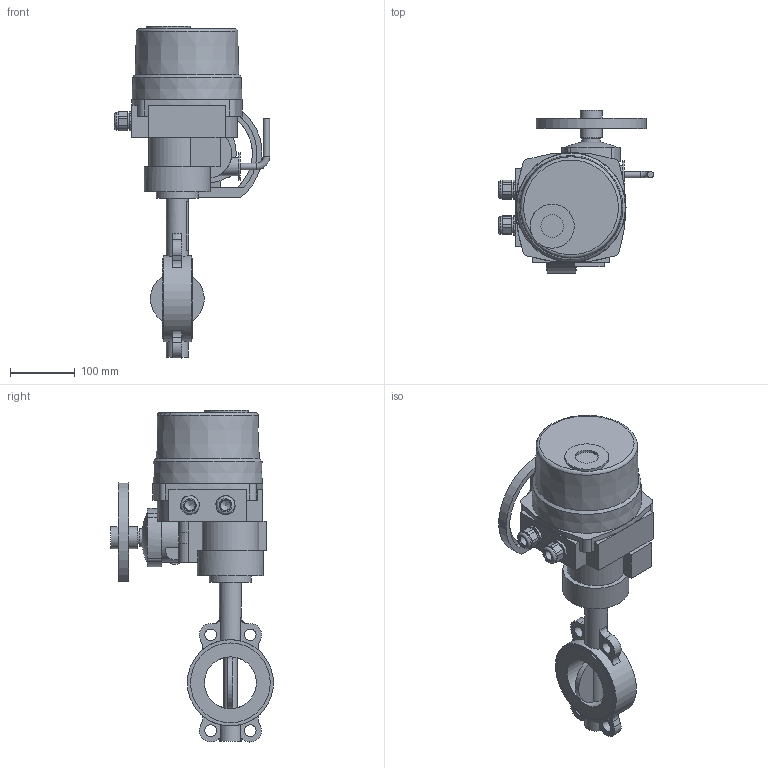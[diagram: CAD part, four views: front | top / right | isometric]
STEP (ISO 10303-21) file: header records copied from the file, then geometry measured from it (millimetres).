
FILE_DESCRIPTION(('STEP AP203'), '1');
FILE_NAME('青蜮铕 015WDN80+菹 QT5-1', '', ('UNSPECIFIED'), ('UNSPECIFIED'), 'ASCON STEP Converter 1.6', 'ASCON Math Kernel', '');
FILE_SCHEMA(('CONFIG_CONTROL_DESIGN'));
Length unit declared in the file: millimetre
Bounding box: 239.5 x 251.5 x 512.38 mm (x, y, z)
Volume: 5072498.8 mm3; surface area: 357999.6 mm2
Topology: 2 solids, 3 shells, 838 faces, 2384 edges, 1534 vertices
Faces by surface type: cylinder 550, plane 269, cone 9, torus 5, bspline 5
Full cylindrical faces by diameter (mm): 4.917 x4, 8 x4, 10 x2, 12.6 x1, 16 x2, 17 x2, 18 x4, 20 x1, 22.835 x2, 25 x2, 28 x3, 28.026 x1, 34 x4, 35 x2, 40 x1, 42 x1, 65 x1, 68 x1, 80 x1, 102 x1, 123 x2, 133 x1
Entity records: 36310 total; most frequent: CARTESIAN_POINT 6965, DIRECTION 5123, ORIENTED_EDGE 4581, EDGE_CURVE 2322, AXIS2_PLACEMENT_3D 2016, VERTEX_POINT 1528, CIRCLE 1182, LINE 1091
